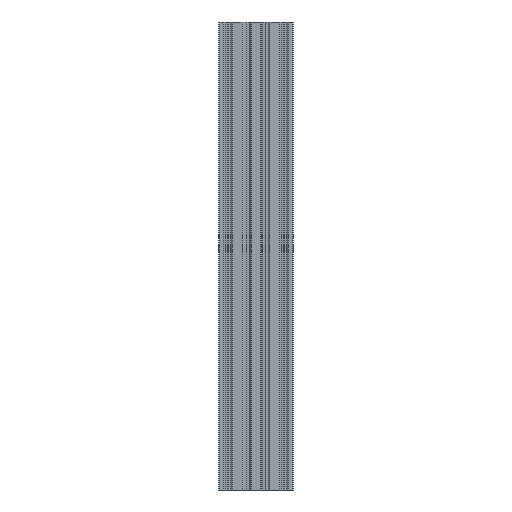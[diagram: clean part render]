
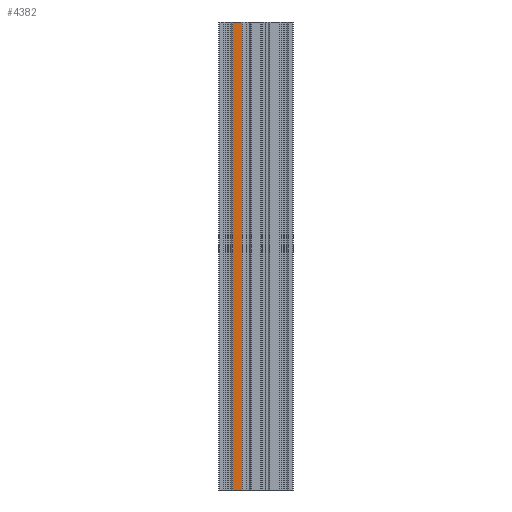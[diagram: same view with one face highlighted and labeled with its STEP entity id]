
A CAD part, front view. The second image highlights one B-rep face of the part: STEP entity #4382.
In plain terms, the highlighted planar face has unit normal (0, -1, 0).
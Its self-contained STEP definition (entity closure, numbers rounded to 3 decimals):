
#63 = VECTOR ( 'NONE', #7595, 1000. ) ;
#258 = CARTESIAN_POINT ( 'NONE',  ( -25.1, -10., 1000. ) ) ;
#560 = CARTESIAN_POINT ( 'NONE',  ( -14.9, -10., 1000. ) ) ;
#758 = LINE ( 'NONE', #7876, #3865 ) ;
#928 = DIRECTION ( 'NONE',  ( 0., 0., -1. ) ) ;
#1316 = VECTOR ( 'NONE', #3972, 1000. ) ;
#1396 = VERTEX_POINT ( 'NONE', #258 ) ;
#1908 = CARTESIAN_POINT ( 'NONE',  ( -14.9, -10., 500. ) ) ;
#2048 = EDGE_CURVE ( 'NONE', #1396, #3797, #758, .T. ) ;
#2255 = CARTESIAN_POINT ( 'NONE',  ( -14.9, -10., 1000. ) ) ;
#2519 = CARTESIAN_POINT ( 'NONE',  ( -14.9, -10., 500. ) ) ;
#3029 = CARTESIAN_POINT ( 'NONE',  ( -25.1, -10., 1000. ) ) ;
#3797 = VERTEX_POINT ( 'NONE', #5274 ) ;
#3865 = VECTOR ( 'NONE', #4679, 1000. ) ;
#3972 = DIRECTION ( 'NONE',  ( 0., 0., -1. ) ) ;
#4044 = FACE_OUTER_BOUND ( 'NONE', #6669, .T. ) ;
#4077 = ORIENTED_EDGE ( 'NONE', *, *, #6464, .F. ) ;
#4315 = VERTEX_POINT ( 'NONE', #1908 ) ;
#4382 = ADVANCED_FACE ( 'NONE', ( #4044 ), #8130, .F. ) ;
#4673 = VERTEX_POINT ( 'NONE', #7045 ) ;
#4679 = DIRECTION ( 'NONE',  ( 1., 0., 0. ) ) ;
#4972 = EDGE_CURVE ( 'NONE', #4673, #4315, #8276, .T. ) ;
#5274 = CARTESIAN_POINT ( 'NONE',  ( -14.9, -10., 1000. ) ) ;
#5465 = ORIENTED_EDGE ( 'NONE', *, *, #4972, .T. ) ;
#6376 = ORIENTED_EDGE ( 'NONE', *, *, #2048, .F. ) ;
#6464 = EDGE_CURVE ( 'NONE', #3797, #4315, #7202, .T. ) ;
#6669 = EDGE_LOOP ( 'NONE', ( #5465, #4077, #6376, #7959 ) ) ;
#6770 = LINE ( 'NONE', #3029, #6802 ) ;
#6802 = VECTOR ( 'NONE', #928, 1000. ) ;
#7045 = CARTESIAN_POINT ( 'NONE',  ( -25.1, -10., 500. ) ) ;
#7202 = LINE ( 'NONE', #560, #1316 ) ;
#7358 = DIRECTION ( 'NONE',  ( 0., 1., 0. ) ) ;
#7595 = DIRECTION ( 'NONE',  ( 1., 0., 0. ) ) ;
#7686 = AXIS2_PLACEMENT_3D ( 'NONE', #2255, #7358, #8047 ) ;
#7876 = CARTESIAN_POINT ( 'NONE',  ( -14.9, -10., 1000. ) ) ;
#7959 = ORIENTED_EDGE ( 'NONE', *, *, #8054, .T. ) ;
#8047 = DIRECTION ( 'NONE',  ( -1., 0., 0. ) ) ;
#8054 = EDGE_CURVE ( 'NONE', #1396, #4673, #6770, .T. ) ;
#8130 = PLANE ( 'NONE',  #7686 ) ;
#8276 = LINE ( 'NONE', #2519, #63 ) ;
